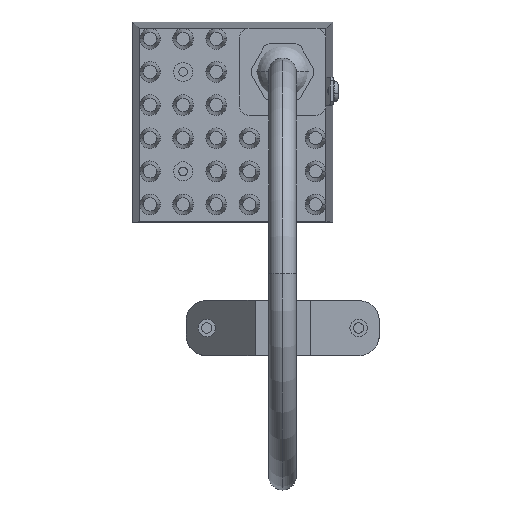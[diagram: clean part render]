
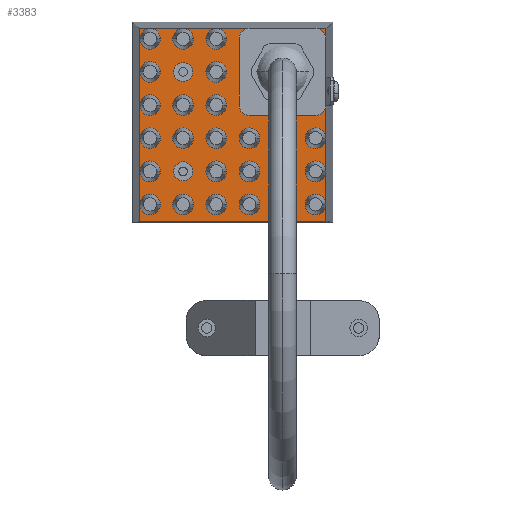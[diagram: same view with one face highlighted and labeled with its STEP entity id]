
A CAD part, top view. The second image highlights one B-rep face of the part: STEP entity #3383.
In plain terms, the highlighted planar face has unit normal (0, 0, 1).
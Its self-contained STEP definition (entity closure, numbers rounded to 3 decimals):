
#3383=ADVANCED_FACE('',(#5831),#5832,.T.);
#5831=FACE_OUTER_BOUND('',#8873,.T.);
#5832=PLANE('',#8874);
#8873=EDGE_LOOP('',(#12964,#12965,#12966,#12967));
#8874=AXIS2_PLACEMENT_3D('',#12968,#12969,#12970);
#12964=ORIENTED_EDGE('',*,*,#16000,.T.);
#12965=ORIENTED_EDGE('',*,*,#17341,.T.);
#12966=ORIENTED_EDGE('',*,*,#17337,.T.);
#12967=ORIENTED_EDGE('',*,*,#17342,.T.);
#12968=CARTESIAN_POINT('',(28.2,28.2,146.9));
#12969=DIRECTION('',(0.0,0.0,1.0));
#12970=DIRECTION('',(1.0,0.0,0.0));
#16000=EDGE_CURVE('',#19425,#19429,#19431,.T.);
#17337=EDGE_CURVE('',#21504,#21502,#21505,.T.);
#17341=EDGE_CURVE('',#19429,#21504,#21509,.T.);
#17342=EDGE_CURVE('',#21502,#19425,#21510,.T.);
#19425=VERTEX_POINT('',#24805);
#19429=VERTEX_POINT('',#24811);
#19431=LINE('',#24814,#24815);
#21502=VERTEX_POINT('',#27552);
#21504=VERTEX_POINT('',#27555);
#21505=LINE('',#27556,#27557);
#21509=LINE('',#27562,#27563);
#21510=LINE('',#27564,#27565);
#24805=CARTESIAN_POINT('',(1.2,55.2,146.9));
#24811=CARTESIAN_POINT('',(1.2,-0.8,146.9));
#24814=CARTESIAN_POINT('',(1.2,42.7,146.9));
#24815=VECTOR('',#33301,1.0);
#27552=CARTESIAN_POINT('',(55.2,55.2,146.9));
#27555=CARTESIAN_POINT('',(55.2,-0.8,146.9));
#27556=CARTESIAN_POINT('',(55.2,13.7,146.9));
#27557=VECTOR('',#34986,1.0);
#27562=CARTESIAN_POINT('',(28.2,-0.8,146.9));
#27563=VECTOR('',#34988,1.0);
#27564=CARTESIAN_POINT('',(42.7,55.2,146.9));
#27565=VECTOR('',#34989,1.0);
#33301=DIRECTION('',(0.,-1.0,0.0));
#34986=DIRECTION('',(0.,1.0,0.0));
#34988=DIRECTION('',(1.0,0.0,0.0));
#34989=DIRECTION('',(-1.0,0.,0.0));
